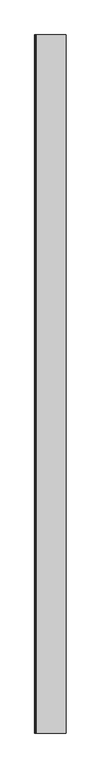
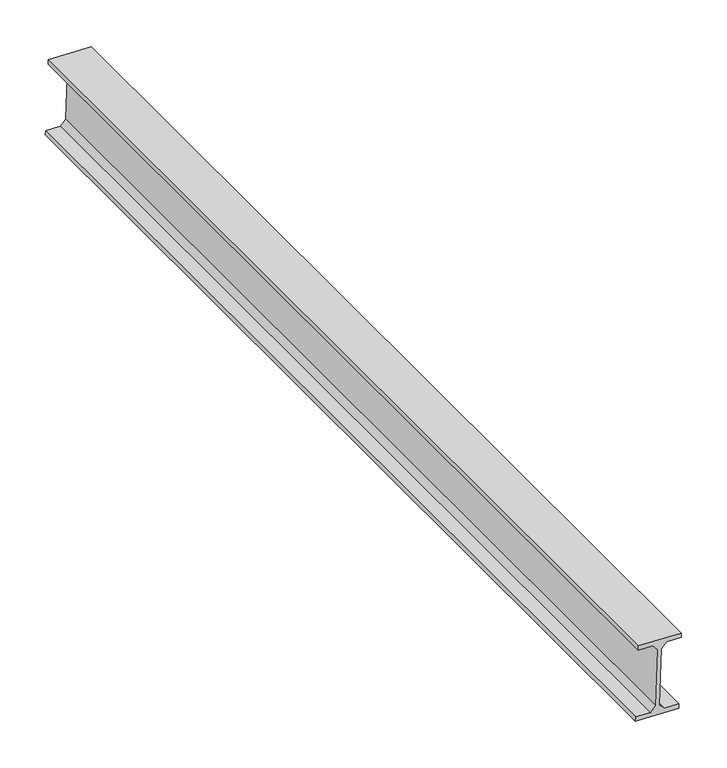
"""IFC4 building model written with IfcOpenShell, lengths in millimetres: beam geometry, Panne 182998 : Panne 182998."""

from ifc_helpers import new_model, si_unit, frame, origin, place, context, project, spatial, polyline, outline, extrude, source, transform, mapped, element, save


def beam_266f3cda(model_context):
    return source(origin(), model_context, "Body", "SweptSolid", [
        extrude(outline(polyline([(7630.325589, 11524.9831716), (7632.249411, 11470.0168282), (7626.5528991, 11469.8174502), (7625.9075442, 11488.25616), (7618.6669777, 11495.0070263), (7544.1126283, 11492.3976241), (7537.3617619, 11485.1570576), (7538.0071167, 11466.7183479), (7532.3106048, 11466.5189699), (7530.3867828, 11521.4853134), (7536.0832947, 11521.6846913), (7536.7286496, 11503.2459815), (7543.9692161, 11496.4951152), (7618.5235655, 11499.1045174), (7625.2744319, 11506.3450839), (7624.629077, 11524.7837937), (7630.325589, 11524.9831716)])), frame((0.0, -39755.0, 0.0), z_axis=(0.0, 1.0, 0.0), x_axis=(0.0, 0.0, 1.0)), (0.0, 0.0, 1.0), 1299.45),
    ])


if __name__ == "__main__":
    model = new_model("IFC4")
    model_context = context("Model", 3, world=origin())
    ifc_project = project(units=[si_unit("LENGTHUNIT", "METRE", prefix="MILLI")], contexts=[model_context])
    site = spatial("IfcSite", under=ifc_project)
    building = spatial("IfcBuilding", under=site)
    placement = place(None, origin())
    beam_shape = beam_266f3cda(model_context)
    element("IfcBeam", 1, ObjectType="Panne 182998 : Panne 182998", at=placement, inside=building, context=model_context, shape_type="MappedRepresentation", body=[
        mapped(beam_shape, transform((0.0, 0.0, 0.0), x_axis=(1.0, 0.0, 0.0), y_axis=(0.0, 1.0, 0.0), z_axis=(0.0, 0.0, 1.0))),
    ])
    save(model, "model.ifc")
